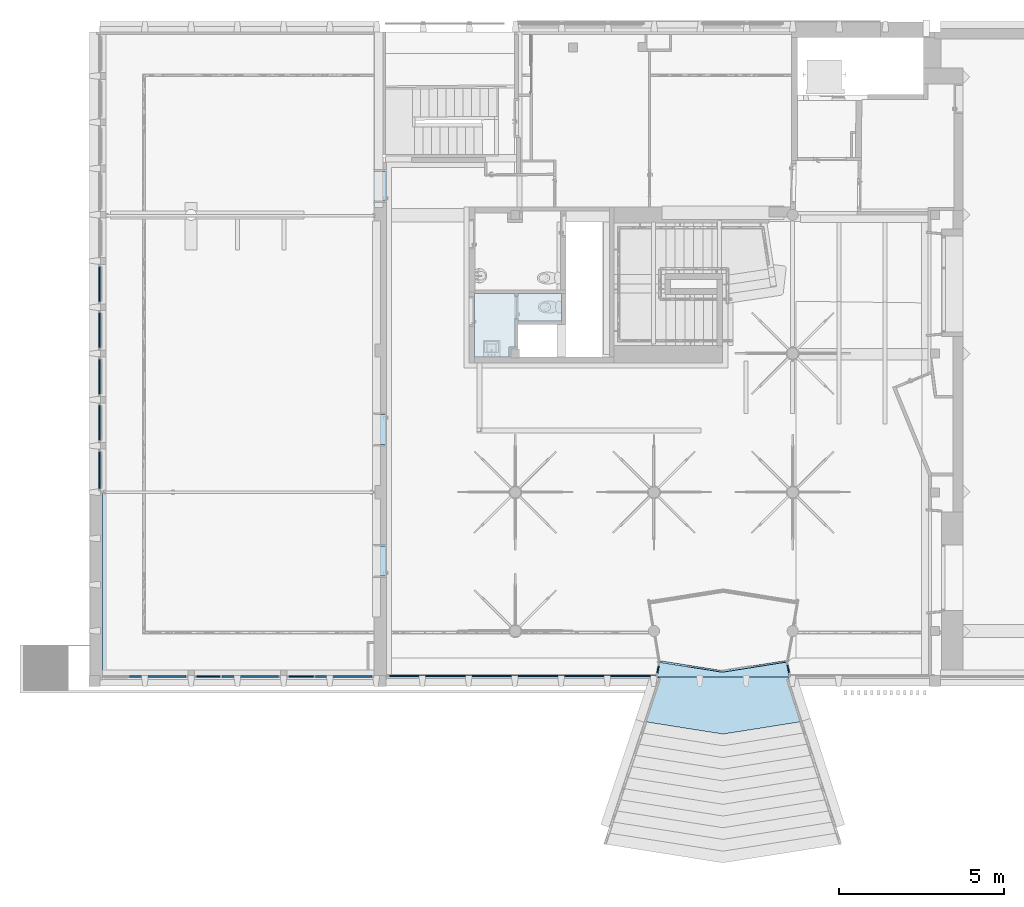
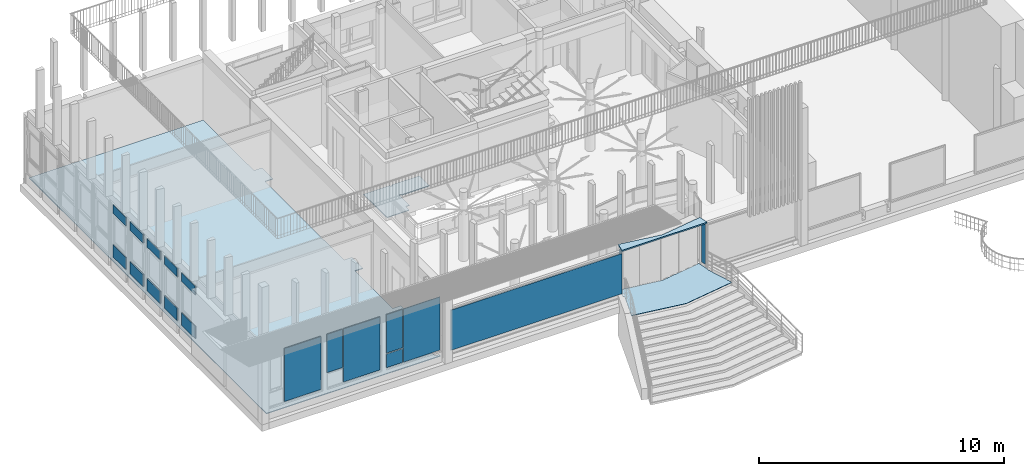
# One storey, part 15 of 65: 19 plates, 4 slabs, 11 elements without a shape of their own.
"""IFC4 building model written with IfcOpenShell, lengths in metres."""

from ifc_helpers import new_model, entity, si_unit, converted_unit, derived_unit, direction, frame, origin, place, context, subcontext, project, spatial, indexed_curve, outline, extrude, shape, source, transform, mapped, material, layer, layer_set, type_object, type_shapes, element, aggregate, save


model = new_model("IFC4")

# Units and contexts
model_context = context("Model", 3, precision=1e-05, world=origin(), true_north=direction((6.12303176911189e-17, 1.0)))
body_context = subcontext(model_context, "Body", "Model", "MODEL_VIEW")
footprint_context = subcontext(model_context, "FootPrint", "Model", "MODEL_VIEW")
ifc_project = project(units=[si_unit("LENGTHUNIT", "METRE"), si_unit("AREAUNIT", "SQUARE_METRE"), si_unit("VOLUMEUNIT", "CUBIC_METRE"), converted_unit("PLANEANGLEUNIT", "DEGREE", entity("IfcRatioMeasure", 0.0174532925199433), si_unit("PLANEANGLEUNIT", "RADIAN"), dimensions=[0, 0, 0, 0, 0, 0, 0]), si_unit("MASSUNIT", "GRAM", prefix="KILO"), derived_unit("MASSDENSITYUNIT", [(si_unit("MASSUNIT", "GRAM", prefix="KILO"), 1), (si_unit("LENGTHUNIT", "METRE"), -3)]), derived_unit("MOMENTOFINERTIAUNIT", [(si_unit("LENGTHUNIT", "METRE"), 4)]), si_unit("TIMEUNIT", "SECOND"), si_unit("FREQUENCYUNIT", "HERTZ"), si_unit("THERMODYNAMICTEMPERATUREUNIT", "DEGREE_CELSIUS"), derived_unit("THERMALTRANSMITTANCEUNIT", [(si_unit("MASSUNIT", "GRAM", prefix="KILO"), 1), (si_unit("THERMODYNAMICTEMPERATUREUNIT", "KELVIN"), -1), (si_unit("TIMEUNIT", "SECOND"), -3)]), derived_unit("VOLUMETRICFLOWRATEUNIT", [(si_unit("LENGTHUNIT", "METRE"), 3), (si_unit("TIMEUNIT", "SECOND"), -1)]), si_unit("ELECTRICCURRENTUNIT", "AMPERE"), si_unit("ELECTRICVOLTAGEUNIT", "VOLT"), si_unit("POWERUNIT", "WATT"), si_unit("FORCEUNIT", "NEWTON", prefix="KILO"), si_unit("ILLUMINANCEUNIT", "LUX"), si_unit("LUMINOUSFLUXUNIT", "LUMEN"), si_unit("LUMINOUSINTENSITYUNIT", "CANDELA"), derived_unit("USERDEFINED", [(si_unit("MASSUNIT", "GRAM", prefix="KILO"), -1), (si_unit("LENGTHUNIT", "METRE"), -2), (si_unit("TIMEUNIT", "SECOND"), 3), (si_unit("LUMINOUSFLUXUNIT", "LUMEN"), 1)]), derived_unit("LINEARVELOCITYUNIT", [(si_unit("LENGTHUNIT", "METRE"), 1), (si_unit("TIMEUNIT", "SECOND"), -1)]), si_unit("PRESSUREUNIT", "PASCAL"), derived_unit("USERDEFINED", [(si_unit("LENGTHUNIT", "METRE"), -2), (si_unit("MASSUNIT", "GRAM", prefix="KILO"), 1), (si_unit("TIMEUNIT", "SECOND"), -2)]), derived_unit("LINEARFORCEUNIT", [(si_unit("MASSUNIT", "GRAM", prefix="KILO"), 1), (si_unit("LENGTHUNIT", "METRE"), 1), (si_unit("TIMEUNIT", "SECOND"), -2), (si_unit("LENGTHUNIT", "METRE"), -1)]), derived_unit("PLANARFORCEUNIT", [(si_unit("MASSUNIT", "GRAM", prefix="KILO"), 1), (si_unit("LENGTHUNIT", "METRE"), 1), (si_unit("TIMEUNIT", "SECOND"), -2), (si_unit("LENGTHUNIT", "METRE"), -2)])], contexts=[model_context])

# Site, building, storey
site_placement = place(None, origin())
site = spatial("IfcSite", under=ifc_project, at=site_placement, Name="Default", CompositionType="ELEMENT")
building_placement = place(site_placement, origin())
building = spatial("IfcBuilding", under=site, at=building_placement, Name="HOTEL CONSULAIRE BOULOGNE SUR MER", CompositionType="ELEMENT")
storey_placement = place(building_placement, origin())
storey = spatial("IfcBuildingStorey", under=building, at=storey_placement, Name="Niveau 0", CompositionType="ELEMENT", Elevation=1.31981936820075e-13)

# Curtain wall, plate
curtain_wall_type = type_object("IfcCurtainWallType", Name="Mur-rideau:Simple panneau", PredefinedType="NOTDEFINED")
curtain_wall_1_placement = place(storey_placement, origin())
curtain_wall_1 = element("IfcCurtainWall", 1, at=curtain_wall_1_placement, inside=storey, type_object=curtain_wall_type, Name="Mur-rideau:Simple panneau", ObjectType="Mur-rideau:Simple panneau", PredefinedType="NOTDEFINED")
ifc_material_1 = material(Name="Verre", Category="Verre")
ifc_layer_1 = layer(ifc_material_1, 0.04, Name="Verre", Category="Verre")
ifc_layer_set_1 = layer_set([ifc_layer_1], Name="Mur-rideau:Simple panneau")
plate_type_1 = type_object("IfcPlateType", Name="Panneau système:Vitré", PredefinedType="CURTAIN_PANEL", material=ifc_layer_set_1)
shared_shape_1 = source(origin(), body_context, "Body", "SweptSolid", [
    extrude(outline(indexed_curve([(-0.0200000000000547, -4.04260374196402), (0.0199999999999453, -4.04260374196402), (0.0200000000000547, 4.04260374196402), (-0.0199999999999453, 4.04260374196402), (-0.0200000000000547, -4.04260374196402)], self_intersect=False)), frame((4.04260374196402, 0.02, 0.0), z_axis=(0.0, 0.0, 1.0), x_axis=(0.0, 1.0, 0.0)), (0.0, 0.0, 1.0), 2.01),
])
shared_shape_2 = source(frame((-4.04260374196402, 0.00500000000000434, 0.0)), footprint_context, "FootPrint", "Curve2D", [
    entity("IfcIndexedPolyCurve", entity("IfcCartesianPointList2D", [[5.27478936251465, 0.00347600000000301], [5.27478936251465, 0.043476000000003], [-2.81041812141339, 0.043476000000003], [-2.81041812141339, 0.00347600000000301], [5.27478936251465, 0.00347600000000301]]), None, False),
])
type_shapes(plate_type_1, [shared_shape_1, shared_shape_2])
plate_1_placement = place(curtain_wall_1_placement, frame((3.03622682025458, -29.5560671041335, 0.139999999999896), z_axis=(0.0, 0.0, 1.0), x_axis=(-1.0, 0.0, 0.0)))
plate_1 = element("IfcPlate", 2, at=plate_1_placement, type_object=plate_type_1, material=ifc_layer_set_1, Name="Panneau système:Vitré", ObjectType="Panneau système:Vitré", PredefinedType="CURTAIN_PANEL", shapes=[
    shape(body_context, "Body", "MappedRepresentation", [mapped(shared_shape_1, transform((0.0, 0.0, 0.0), scale=1.0))]),
    shape(body_context, "Body", "MappedRepresentation", [mapped(shared_shape_2, transform((0.0, 0.0, 0.0), scale=1.0))]),
])
aggregate(curtain_wall_1, [plate_1])

curtain_wall_2_placement = place(storey_placement, origin())
curtain_wall_2 = element("IfcCurtainWall", 3, at=curtain_wall_2_placement, inside=storey, type_object=curtain_wall_type, Name="Mur-rideau:Simple panneau", ObjectType="Mur-rideau:Simple panneau", PredefinedType="NOTDEFINED")
plate_type_2 = type_object("IfcPlateType", Name="Panneau système:Vitré", PredefinedType="CURTAIN_PANEL", material=ifc_layer_set_1)
shared_shape_3 = source(origin(), body_context, "Body", "SweptSolid", [
    extrude(outline(indexed_curve([(-0.0200000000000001, -0.116499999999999), (0.0199999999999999, -0.116499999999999), (0.02, 0.116499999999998), (-0.02, 0.116499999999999), (-0.0200000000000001, -0.116499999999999)], self_intersect=False)), frame((0.116499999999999, 0.02, 0.0), z_axis=(0.0, 0.0, 1.0), x_axis=(0.0, 1.0, 0.0)), (0.0, 0.0, 1.0), 2.01),
])
shared_shape_4 = source(frame((-0.116500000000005, 0.00500000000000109, 0.0)), footprint_context, "FootPrint", "Curve2D", [
    entity("IfcIndexedPolyCurve", entity("IfcCartesianPointList2D", [[0.152009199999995, 0.00347600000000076], [0.152009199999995, 0.0434760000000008], [-0.0809908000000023, 0.0434760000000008], [-0.0809908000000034, 0.00347600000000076], [0.152009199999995, 0.00347600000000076]]), None, False),
])
type_shapes(plate_type_2, [shared_shape_3, shared_shape_4])
plate_2_placement = place(curtain_wall_2_placement, frame((3.09085913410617, -29.5010316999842, 0.139999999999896), z_axis=(0.0, 0.0, 1.0), x_axis=(0.190808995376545, 0.981627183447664, 0.0)))
plate_2 = element("IfcPlate", 4, at=plate_2_placement, type_object=plate_type_2, material=ifc_layer_set_1, Name="Panneau système:Vitré", ObjectType="Panneau système:Vitré", PredefinedType="CURTAIN_PANEL", shapes=[
    shape(body_context, "Body", "MappedRepresentation", [mapped(shared_shape_3, transform((0.0, 0.0, 0.0), scale=1.0))]),
    shape(body_context, "Body", "MappedRepresentation", [mapped(shared_shape_4, transform((0.0, 0.0, 0.0), scale=1.0))]),
])
aggregate(curtain_wall_2, [plate_2])

curtain_wall_3_placement = place(storey_placement, origin())
curtain_wall_3 = element("IfcCurtainWall", 5, at=curtain_wall_3_placement, inside=storey, type_object=curtain_wall_type, Name="Mur-rideau:Simple panneau", ObjectType="Mur-rideau:Simple panneau", PredefinedType="NOTDEFINED")
plate_type_3 = type_object("IfcPlateType", Name="Panneau système:Vitré", PredefinedType="CURTAIN_PANEL", material=ifc_layer_set_1)
shared_shape_5 = source(origin(), body_context, "Body", "SweptSolid", [
    extrude(outline(indexed_curve([(-0.02, -0.125888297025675), (0.02, -0.125888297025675), (0.02, 0.125888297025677), (-0.02, 0.125888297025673), (-0.02, -0.125888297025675)], self_intersect=False)), frame((0.125888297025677, 0.02, 0.0), z_axis=(0.0, 0.0, 1.0), x_axis=(0.0, 1.0, 0.0)), (0.0, 0.0, 1.0), 2.01),
])
shared_shape_6 = source(frame((-0.125888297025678, -0.045, 0.0)), footprint_context, "FootPrint", "Curve2D", [
    entity("IfcIndexedPolyCurve", entity("IfcCartesianPointList2D", [[0.164259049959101, -0.031284], [0.164259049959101, 0.008716], [-0.0875175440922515, 0.00871600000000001], [-0.0875175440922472, -0.031284], [0.164259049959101, -0.031284]]), None, False),
])
type_shapes(plate_type_3, [shared_shape_5, shared_shape_6])
plate_3_placement = place(curtain_wall_3_placement, frame((7.08056810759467, -29.47980369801, 0.139999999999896), z_axis=(0.0, 0.0, 1.0), x_axis=(-0.207911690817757, 0.978147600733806, 0.0)))
plate_3 = element("IfcPlate", 6, at=plate_3_placement, type_object=plate_type_3, material=ifc_layer_set_1, Name="Panneau système:Vitré", ObjectType="Panneau système:Vitré", PredefinedType="CURTAIN_PANEL", shapes=[
    shape(body_context, "Body", "MappedRepresentation", [mapped(shared_shape_5, transform((0.0, 0.0, 0.0), scale=1.0))]),
    shape(body_context, "Body", "MappedRepresentation", [mapped(shared_shape_6, transform((0.0, 0.0, 0.0), scale=1.0))]),
])
aggregate(curtain_wall_3, [plate_3])

# Slabs
ifc_material_2 = material(Name="moquette bleu")
ifc_layer_2 = layer(ifc_material_2, 0.015, Name="moquette bleu")
ifc_material_3 = material(Name="Carrelage beige")
ifc_layer_3 = layer(ifc_material_3, 0.02, Name="Carrelage beige")
ifc_layer_set_2 = layer_set([ifc_layer_2, ifc_layer_3], Name="Sol:finition carrelage 20 mm + moquette 15")
slab_type_1 = type_object("IfcSlabType", Name="Sol:finition carrelage 20 mm + moquette 15", PredefinedType="FLOOR", material=ifc_layer_set_2)
slab_1_placement = place(storey_placement, origin())
element("IfcSlab", 7, at=slab_1_placement, inside=storey, type_object=slab_type_1, material=ifc_layer_set_2, Name="Sol:finition carrelage 20 mm + moquette 15", ObjectType="Sol:finition carrelage 20 mm + moquette 15", PredefinedType="FLOOR", context=body_context, shape_type="SweptSolid", body=[
    extrude(outline(indexed_curve([(-7.19484632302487, -7.49124537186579), (12.2088966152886, -7.49124537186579), (12.2088966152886, 0.728331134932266), (8.06093102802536, 0.728331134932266), (8.06093102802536, 1.10833113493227), (7.16093102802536, 1.10833113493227), (7.16093102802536, 0.728331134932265), (0.697243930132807, 0.728331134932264), (0.697243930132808, 1.10833113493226), (-0.202756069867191, 1.10833113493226), (-0.202756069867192, 0.728331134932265), (-3.28884632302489, 0.728331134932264), (-3.28884632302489, 1.10833113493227), (-4.18884632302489, 1.10833113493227), (-4.18884632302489, 0.728331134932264), (-6.17486945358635, 0.728331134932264), (-6.17486945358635, 0.52459629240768), (-7.07783810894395, 0.524596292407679), (-7.07783810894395, 0.728331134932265), (-7.19484632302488, 0.728331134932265), (-7.19484632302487, -7.49124537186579)], self_intersect=False)), frame((-6.23810431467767, -22.3592207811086, 0.0149999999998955), z_axis=(0.0, 0.0, -1.0), x_axis=(0.0, 1.0, 0.0)), (0.0, 0.0, 1.0), 0.035),
])
ifc_material_4 = material(Name="carrelage noir")
ifc_layer_4 = layer(ifc_material_4, 0.03, Name="carrelage noir")
ifc_layer_set_3 = layer_set([ifc_layer_4], Name="Sol:Finition carrelage noir")
slab_type_2 = type_object("IfcSlabType", Name="Sol:Finition carrelage noir", PredefinedType="FLOOR", material=ifc_layer_set_3)
slab_2_placement = place(storey_placement, origin())
element("IfcSlab", 8, at=slab_2_placement, inside=storey, type_object=slab_type_2, material=ifc_layer_set_3, Name="Sol:Finition carrelage noir", ObjectType="Sol:Finition carrelage noir", PredefinedType="FLOOR", context=body_context, shape_type="SweptSolid", body=[
    extrude(outline(indexed_curve([(-1.17004610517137, -1.25406140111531), (0.742307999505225, -1.25406140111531), (0.742307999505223, -0.0270543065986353), (0.674158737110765, -0.0270543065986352), (0.674158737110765, 0.0629456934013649), (0.742307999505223, 0.0629456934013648), (0.742307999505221, 1.38755837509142), (-0.0878412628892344, 1.38755837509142), (-0.0878412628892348, 0.0629456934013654), (-0.0258412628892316, 0.0629456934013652), (-0.0258412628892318, -0.0270543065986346), (-0.875046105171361, -0.027054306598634), (-0.875046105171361, -0.205279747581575), (-1.17004610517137, -0.205279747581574), (-1.17004610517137, -1.25406140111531)], self_intersect=False)), frame((-1.21529018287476, -18.7448682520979, 0.01), z_axis=(0.0, 0.0, -1.0), x_axis=(0.0, 1.0, 0.0)), (0.0, 0.0, 1.0), 0.03),
])

# Curtain wall, plates
curtain_wall_4_placement = place(storey_placement, origin())
curtain_wall_4 = element("IfcCurtainWall", 9, at=curtain_wall_4_placement, inside=storey, type_object=curtain_wall_type, Name="Mur-rideau:Simple panneau", ObjectType="Mur-rideau:Simple panneau", PredefinedType="NOTDEFINED")
plate_type_4 = type_object("IfcPlateType", Name="Panneau système:Vitré", PredefinedType="CURTAIN_PANEL", material=ifc_layer_set_1)
shared_shape_7 = source(origin(), body_context, "Body", "SweptSolid", [
    extrude(outline(indexed_curve([(-0.02, -0.56180046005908), (0.02, -0.56180046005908), (0.02, 0.56180046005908), (-0.02, 0.56180046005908), (-0.02, -0.56180046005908)], self_intersect=False)), frame((0.56180046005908, 0.02, 0.0), z_axis=(0.0, 0.0, 1.0), x_axis=(0.0, 1.0, 0.0)), (0.0, 0.0, 1.0), 0.612),
])
shared_shape_8 = source(frame((-0.561800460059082, 0.00500000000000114, 0.0)), footprint_context, "FootPrint", "Curve2D", [
    entity("IfcIndexedPolyCurve", entity("IfcCartesianPointList2D", [[0.733037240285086, 0.00347600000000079], [0.733037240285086, 0.0434760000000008], [-0.390563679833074, 0.0434760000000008], [-0.390563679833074, 0.00347600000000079], [0.733037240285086, 0.00347600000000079]]), None, False),
])
type_shapes(plate_type_4, [shared_shape_7, shared_shape_8])
plate_4_placement = place(curtain_wall_4_placement, frame((-13.7950998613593, -23.9050508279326, 0.359999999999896), z_axis=(0.0, 0.0, 1.0), x_axis=(0.0, 1.0, 0.0)))
plate_4 = element("IfcPlate", 10, at=plate_4_placement, type_object=plate_type_4, material=ifc_layer_set_1, Name="Panneau système:Vitré", ObjectType="Panneau système:Vitré", PredefinedType="CURTAIN_PANEL", shapes=[
    shape(body_context, "Body", "MappedRepresentation", [mapped(shared_shape_7, transform((0.0, 0.0, 0.0), scale=1.0))]),
    shape(body_context, "Body", "MappedRepresentation", [mapped(shared_shape_8, transform((0.0, 0.0, 0.0), scale=1.0))]),
])
plate_type_5 = type_object("IfcPlateType", Name="Panneau système:Vitré", PredefinedType="CURTAIN_PANEL", material=ifc_layer_set_1)
shared_shape_9 = source(origin(), body_context, "Body", "SweptSolid", [
    extrude(outline(indexed_curve([(-0.02, -0.56180046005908), (0.02, -0.56180046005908), (0.02, 0.56180046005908), (-0.02, 0.56180046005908), (-0.02, -0.56180046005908)], self_intersect=False)), frame((0.56180046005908, 0.02, 0.0), z_axis=(0.0, 0.0, 1.0), x_axis=(0.0, 1.0, 0.0)), (0.0, 0.0, 1.0), 0.423999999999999),
])
shared_shape_10 = source(frame((-0.561800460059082, 0.00500000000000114, 0.0)), footprint_context, "FootPrint", "Curve2D", [
    entity("IfcIndexedPolyCurve", entity("IfcCartesianPointList2D", [[0.733037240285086, 0.00347600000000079], [0.733037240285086, 0.0434760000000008], [-0.390563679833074, 0.0434760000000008], [-0.390563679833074, 0.00347600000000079], [0.733037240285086, 0.00347600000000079]]), None, False),
])
type_shapes(plate_type_5, [shared_shape_9, shared_shape_10])
plate_5_placement = place(curtain_wall_4_placement, frame((-13.7950998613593, -23.9050508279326, 2.5459999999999), z_axis=(0.0, 0.0, 1.0), x_axis=(0.0, 1.0, 0.0)))
plate_5 = element("IfcPlate", 11, at=plate_5_placement, type_object=plate_type_5, material=ifc_layer_set_1, Name="Panneau système:Vitré", ObjectType="Panneau système:Vitré", PredefinedType="CURTAIN_PANEL", shapes=[
    shape(body_context, "Body", "MappedRepresentation", [mapped(shared_shape_9, transform((0.0, 0.0, 0.0), scale=1.0))]),
    shape(body_context, "Body", "MappedRepresentation", [mapped(shared_shape_10, transform((0.0, 0.0, 0.0), scale=1.0))]),
])
aggregate(curtain_wall_4, [plate_4, plate_5])

# Curtain wall, plate
curtain_wall_5_placement = place(storey_placement, origin())
curtain_wall_5 = element("IfcCurtainWall", 12, at=curtain_wall_5_placement, inside=storey, type_object=curtain_wall_type, Name="Mur-rideau:Simple panneau", ObjectType="Mur-rideau:Simple panneau", PredefinedType="NOTDEFINED")
plate_type_6 = type_object("IfcPlateType", Name="Panneau système:Vitré", PredefinedType="CURTAIN_PANEL", material=ifc_layer_set_1)
shared_shape_11 = source(origin(), body_context, "Body", "SweptSolid", [
    extrude(outline(indexed_curve([(-0.02, -0.530000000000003), (0.02, -0.530000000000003), (0.02, 0.530000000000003), (-0.02, 0.530000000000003), (-0.02, -0.530000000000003)], self_intersect=False)), frame((0.530000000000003, 0.02, 0.0), z_axis=(0.0, 0.0, 1.0), x_axis=(0.0, 1.0, 0.0)), (0.0, 0.0, 1.0), 0.612),
])
shared_shape_12 = source(frame((-0.530000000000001, 0.00500000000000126, 0.0)), footprint_context, "FootPrint", "Curve2D", [
    entity("IfcIndexedPolyCurve", entity("IfcCartesianPointList2D", [[0.691544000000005, 0.00347600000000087], [0.691544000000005, 0.0434760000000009], [-0.368456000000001, 0.0434760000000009], [-0.368456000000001, 0.00347600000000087], [0.691544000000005, 0.00347600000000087]]), None, False),
])
type_shapes(plate_type_6, [shared_shape_11, shared_shape_12])
plate_6_placement = place(curtain_wall_5_placement, frame((-13.7950998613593, -22.4414499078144, 0.359999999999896), z_axis=(0.0, 0.0, 1.0), x_axis=(0.0, 1.0, 0.0)))
plate_6 = element("IfcPlate", 13, at=plate_6_placement, type_object=plate_type_6, material=ifc_layer_set_1, Name="Panneau système:Vitré", ObjectType="Panneau système:Vitré", PredefinedType="CURTAIN_PANEL", shapes=[
    shape(body_context, "Body", "MappedRepresentation", [mapped(shared_shape_11, transform((0.0, 0.0, 0.0), scale=1.0))]),
    shape(body_context, "Body", "MappedRepresentation", [mapped(shared_shape_12, transform((0.0, 0.0, 0.0), scale=1.0))]),
])

curtain_wall_6_placement = place(storey_placement, origin())
curtain_wall_6 = element("IfcCurtainWall", 14, at=curtain_wall_6_placement, inside=storey, type_object=curtain_wall_type, Name="Mur-rideau:Simple panneau", ObjectType="Mur-rideau:Simple panneau", PredefinedType="NOTDEFINED")
plate_7_placement = place(curtain_wall_6_placement, frame((-13.7950998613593, -21.0414499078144, 0.359999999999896), z_axis=(0.0, 0.0, 1.0), x_axis=(0.0, 1.0, 0.0)))
plate_7 = element("IfcPlate", 15, at=plate_7_placement, type_object=plate_type_6, material=ifc_layer_set_1, Name="Panneau système:Vitré", ObjectType="Panneau système:Vitré", PredefinedType="CURTAIN_PANEL", shapes=[
    shape(body_context, "Body", "MappedRepresentation", [mapped(shared_shape_11, transform((0.0, 0.0, 0.0), scale=1.0))]),
    shape(body_context, "Body", "MappedRepresentation", [mapped(shared_shape_12, transform((0.0, 0.0, 0.0), scale=1.0))]),
])

curtain_wall_7_placement = place(storey_placement, origin())
curtain_wall_7 = element("IfcCurtainWall", 16, at=curtain_wall_7_placement, inside=storey, type_object=curtain_wall_type, Name="Mur-rideau:Simple panneau", ObjectType="Mur-rideau:Simple panneau", PredefinedType="NOTDEFINED")
plate_8_placement = place(curtain_wall_7_placement, frame((-13.7950998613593, -19.6414499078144, 0.359999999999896), z_axis=(0.0, 0.0, 1.0), x_axis=(0.0, 1.0, 0.0)))
plate_8 = element("IfcPlate", 17, at=plate_8_placement, type_object=plate_type_6, material=ifc_layer_set_1, Name="Panneau système:Vitré", ObjectType="Panneau système:Vitré", PredefinedType="CURTAIN_PANEL", shapes=[
    shape(body_context, "Body", "MappedRepresentation", [mapped(shared_shape_11, transform((0.0, 0.0, 0.0), scale=1.0))]),
    shape(body_context, "Body", "MappedRepresentation", [mapped(shared_shape_12, transform((0.0, 0.0, 0.0), scale=1.0))]),
])

curtain_wall_8_placement = place(storey_placement, origin())
curtain_wall_8 = element("IfcCurtainWall", 18, at=curtain_wall_8_placement, inside=storey, type_object=curtain_wall_type, Name="Mur-rideau:Simple panneau", ObjectType="Mur-rideau:Simple panneau", PredefinedType="NOTDEFINED")
plate_9_placement = place(curtain_wall_8_placement, frame((-13.7950998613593, -18.2414499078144, 0.359999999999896), z_axis=(0.0, 0.0, 1.0), x_axis=(0.0, 1.0, 0.0)))
plate_9 = element("IfcPlate", 19, at=plate_9_placement, type_object=plate_type_6, material=ifc_layer_set_1, Name="Panneau système:Vitré", ObjectType="Panneau système:Vitré", PredefinedType="CURTAIN_PANEL", shapes=[
    shape(body_context, "Body", "MappedRepresentation", [mapped(shared_shape_11, transform((0.0, 0.0, 0.0), scale=1.0))]),
    shape(body_context, "Body", "MappedRepresentation", [mapped(shared_shape_12, transform((0.0, 0.0, 0.0), scale=1.0))]),
])

# Plate
plate_type_7 = type_object("IfcPlateType", Name="Panneau système:Vitré", PredefinedType="CURTAIN_PANEL", material=ifc_layer_set_1)
shared_shape_13 = source(origin(), body_context, "Body", "SweptSolid", [
    extrude(outline(indexed_curve([(-0.02, -0.530000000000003), (0.02, -0.530000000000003), (0.02, 0.530000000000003), (-0.02, 0.530000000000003), (-0.02, -0.530000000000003)], self_intersect=False)), frame((0.530000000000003, 0.02, 0.0), z_axis=(0.0, 0.0, 1.0), x_axis=(0.0, 1.0, 0.0)), (0.0, 0.0, 1.0), 0.423999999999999),
])
shared_shape_14 = source(frame((-0.530000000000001, 0.00500000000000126, 0.0)), footprint_context, "FootPrint", "Curve2D", [
    entity("IfcIndexedPolyCurve", entity("IfcCartesianPointList2D", [[0.691544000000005, 0.00347600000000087], [0.691544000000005, 0.0434760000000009], [-0.368456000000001, 0.0434760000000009], [-0.368456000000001, 0.00347600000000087], [0.691544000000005, 0.00347600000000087]]), None, False),
])
type_shapes(plate_type_7, [shared_shape_13, shared_shape_14])
plate_10_placement = place(curtain_wall_5_placement, frame((-13.7950998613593, -22.4414499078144, 2.5459999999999), z_axis=(0.0, 0.0, 1.0), x_axis=(0.0, 1.0, 0.0)))
plate_10 = element("IfcPlate", 20, at=plate_10_placement, type_object=plate_type_7, material=ifc_layer_set_1, Name="Panneau système:Vitré", ObjectType="Panneau système:Vitré", PredefinedType="CURTAIN_PANEL", shapes=[
    shape(body_context, "Body", "MappedRepresentation", [mapped(shared_shape_13, transform((0.0, 0.0, 0.0), scale=1.0))]),
    shape(body_context, "Body", "MappedRepresentation", [mapped(shared_shape_14, transform((0.0, 0.0, 0.0), scale=1.0))]),
])

aggregate(curtain_wall_5, [plate_6, plate_10])

plate_11_placement = place(curtain_wall_6_placement, frame((-13.7950998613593, -21.0414499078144, 2.5459999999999), z_axis=(0.0, 0.0, 1.0), x_axis=(0.0, 1.0, 0.0)))
plate_11 = element("IfcPlate", 21, at=plate_11_placement, type_object=plate_type_7, material=ifc_layer_set_1, Name="Panneau système:Vitré", ObjectType="Panneau système:Vitré", PredefinedType="CURTAIN_PANEL", shapes=[
    shape(body_context, "Body", "MappedRepresentation", [mapped(shared_shape_13, transform((0.0, 0.0, 0.0), scale=1.0))]),
    shape(body_context, "Body", "MappedRepresentation", [mapped(shared_shape_14, transform((0.0, 0.0, 0.0), scale=1.0))]),
])

aggregate(curtain_wall_6, [plate_7, plate_11])

plate_12_placement = place(curtain_wall_7_placement, frame((-13.7950998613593, -19.6414499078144, 2.5459999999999), z_axis=(0.0, 0.0, 1.0), x_axis=(0.0, 1.0, 0.0)))
plate_12 = element("IfcPlate", 22, at=plate_12_placement, type_object=plate_type_7, material=ifc_layer_set_1, Name="Panneau système:Vitré", ObjectType="Panneau système:Vitré", PredefinedType="CURTAIN_PANEL", shapes=[
    shape(body_context, "Body", "MappedRepresentation", [mapped(shared_shape_13, transform((0.0, 0.0, 0.0), scale=1.0))]),
    shape(body_context, "Body", "MappedRepresentation", [mapped(shared_shape_14, transform((0.0, 0.0, 0.0), scale=1.0))]),
])

aggregate(curtain_wall_7, [plate_8, plate_12])

plate_13_placement = place(curtain_wall_8_placement, frame((-13.7950998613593, -18.2414499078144, 2.5459999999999), z_axis=(0.0, 0.0, 1.0), x_axis=(0.0, 1.0, 0.0)))
plate_13 = element("IfcPlate", 23, at=plate_13_placement, type_object=plate_type_7, material=ifc_layer_set_1, Name="Panneau système:Vitré", ObjectType="Panneau système:Vitré", PredefinedType="CURTAIN_PANEL", shapes=[
    shape(body_context, "Body", "MappedRepresentation", [mapped(shared_shape_13, transform((0.0, 0.0, 0.0), scale=1.0))]),
    shape(body_context, "Body", "MappedRepresentation", [mapped(shared_shape_14, transform((0.0, 0.0, 0.0), scale=1.0))]),
])

aggregate(curtain_wall_8, [plate_9, plate_13])

# Curtain wall, plate
curtain_wall_9_placement = place(storey_placement, origin())
curtain_wall_9 = element("IfcCurtainWall", 24, at=curtain_wall_9_placement, inside=storey, type_object=curtain_wall_type, Name="Mur-rideau:Simple panneau", ObjectType="Mur-rideau:Simple panneau", PredefinedType="NOTDEFINED")
plate_type_8 = type_object("IfcPlateType", Name="Panneau système:Vitré", PredefinedType="CURTAIN_PANEL", material=ifc_layer_set_1)
shared_shape_15 = source(origin(), body_context, "Body", "SweptSolid", [
    extrude(outline(indexed_curve([(-1.11966666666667, -0.861780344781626), (-0.410666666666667, -0.861780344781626), (1.53033333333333, -0.861780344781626), (1.53033333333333, 0.861780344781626), (-0.410666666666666, 0.861780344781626), (-1.11966666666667, 0.861780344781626), (-1.11966666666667, -0.861780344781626)], self_intersect=False)), frame((0.861780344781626, 0.0, 1.11966666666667), z_axis=(0.0, 1.0, 0.0), x_axis=(0.0, 0.0, 1.0)), (0.0, 0.0, 1.0), 0.04),
])
shared_shape_16 = source(frame((-0.861780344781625, 0.00499999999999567, 0.0)), footprint_context, "FootPrint", "Curve2D", [
    entity("IfcIndexedPolyCurve", entity("IfcCartesianPointList2D", [[-0.599109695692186, 0.00347599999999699], [-0.599109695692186, 0.00347599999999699], [-0.599109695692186, 0.00347599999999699], [1.12445099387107, 0.00347599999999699], [1.12445099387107, 0.00347599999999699], [1.12445099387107, 0.00347599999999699], [-0.599109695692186, 0.00347599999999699]]), None, False),
])
type_shapes(plate_type_8, [shared_shape_15, shared_shape_16])
plate_14_placement = place(curtain_wall_9_placement, frame((-12.9149806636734, -29.6090671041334, 0.349999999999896)))
plate_14 = element("IfcPlate", 25, at=plate_14_placement, type_object=plate_type_8, material=ifc_layer_set_1, Name="Panneau système:Vitré", ObjectType="Panneau système:Vitré", PredefinedType="CURTAIN_PANEL", shapes=[
    shape(body_context, "Body", "MappedRepresentation", [mapped(shared_shape_15, transform((0.0, 0.0, 0.0), scale=1.0))]),
    shape(body_context, "Body", "MappedRepresentation", [mapped(shared_shape_16, transform((0.0, 0.0, 0.0), scale=1.0))]),
])
aggregate(curtain_wall_9, [plate_14])

curtain_wall_10_placement = place(storey_placement, origin())
curtain_wall_10 = element("IfcCurtainWall", 26, at=curtain_wall_10_placement, inside=storey, type_object=curtain_wall_type, Name="Mur-rideau:Simple panneau", ObjectType="Mur-rideau:Simple panneau", PredefinedType="NOTDEFINED")
plate_15_placement = place(curtain_wall_10_placement, frame((-7.28333386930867, -29.6090671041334, 0.349999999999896)))
plate_15 = element("IfcPlate", 27, at=plate_15_placement, type_object=plate_type_8, material=ifc_layer_set_1, Name="Panneau système:Vitré", ObjectType="Panneau système:Vitré", PredefinedType="CURTAIN_PANEL", shapes=[
    shape(body_context, "Body", "MappedRepresentation", [mapped(shared_shape_15, transform((0.0, 0.0, 0.0), scale=1.0))]),
    shape(body_context, "Body", "MappedRepresentation", [mapped(shared_shape_16, transform((0.0, 0.0, 0.0), scale=1.0))]),
])

curtain_wall_11_placement = place(storey_placement, origin())
curtain_wall_11 = element("IfcCurtainWall", 28, at=curtain_wall_11_placement, inside=storey, type_object=curtain_wall_type, Name="Mur-rideau:Simple panneau", ObjectType="Mur-rideau:Simple panneau", PredefinedType="NOTDEFINED")
plate_16_placement = place(curtain_wall_11_placement, frame((-10.1149806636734, -29.6090671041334, 0.349999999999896)))
plate_16 = element("IfcPlate", 29, at=plate_16_placement, type_object=plate_type_8, material=ifc_layer_set_1, Name="Panneau système:Vitré", ObjectType="Panneau système:Vitré", PredefinedType="CURTAIN_PANEL", shapes=[
    shape(body_context, "Body", "MappedRepresentation", [mapped(shared_shape_15, transform((0.0, 0.0, 0.0), scale=1.0))]),
    shape(body_context, "Body", "MappedRepresentation", [mapped(shared_shape_16, transform((0.0, 0.0, 0.0), scale=1.0))]),
])

# Plate
plate_type_9 = type_object("IfcPlateType", Name="Panneau système:Vitré", PredefinedType="CURTAIN_PANEL", material=ifc_layer_set_1)
shared_shape_17 = source(origin(), body_context, "Body", "SweptSolid", [
    extrude(outline(indexed_curve([(-0.02, -0.379043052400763), (0.02, -0.379043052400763), (0.02, 0.379043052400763), (-0.02, 0.379043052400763), (-0.02, -0.379043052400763)], self_intersect=False)), frame((0.379043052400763, 0.02, 0.0), z_axis=(0.0, 0.0, 1.0), x_axis=(0.0, 1.0, 0.0)), (0.0, 0.0, 1.0), 0.684),
])
shared_shape_18 = source(frame((-0.379043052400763, 0.00500000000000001, 0.0)), footprint_context, "FootPrint", "Curve2D", [
    entity("IfcIndexedPolyCurve", entity("IfcCartesianPointList2D", [[0.494575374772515, 0.003476], [0.494575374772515, 0.043476], [-0.263510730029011, 0.043476], [-0.263510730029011, 0.003476], [0.494575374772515, 0.003476]]), None, False),
])
type_shapes(plate_type_9, [shared_shape_17, shared_shape_18])
plate_17_placement = place(curtain_wall_10_placement, frame((-8.0914199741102, -29.6090671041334, 0.349999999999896)))
plate_17 = element("IfcPlate", 30, at=plate_17_placement, type_object=plate_type_9, material=ifc_layer_set_1, Name="Panneau système:Vitré", ObjectType="Panneau système:Vitré", PredefinedType="CURTAIN_PANEL", shapes=[
    shape(body_context, "Body", "MappedRepresentation", [mapped(shared_shape_17, transform((0.0, 0.0, 0.0), scale=1.0))]),
    shape(body_context, "Body", "MappedRepresentation", [mapped(shared_shape_18, transform((0.0, 0.0, 0.0), scale=1.0))]),
])

plate_type_10 = type_object("IfcPlateType", Name="Panneau système:Vitré", PredefinedType="CURTAIN_PANEL", material=ifc_layer_set_1)
shared_shape_19 = source(origin(), body_context, "Body", "SweptSolid", [
    extrude(outline(indexed_curve([(-0.02, -0.379043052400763), (0.02, -0.379043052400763), (0.02, 0.379043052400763), (-0.02, 0.379043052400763), (-0.02, -0.379043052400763)], self_intersect=False)), frame((0.379043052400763, 0.02, 0.0), z_axis=(0.0, 0.0, 1.0), x_axis=(0.0, 1.0, 0.0)), (0.0, 0.0, 1.0), 1.916),
])
shared_shape_20 = source(frame((-0.379043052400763, 0.00500000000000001, 0.0)), footprint_context, "FootPrint", "Curve2D", [
    entity("IfcIndexedPolyCurve", entity("IfcCartesianPointList2D", [[0.494575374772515, 0.003476], [0.494575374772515, 0.043476], [-0.263510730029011, 0.043476], [-0.263510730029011, 0.003476], [0.494575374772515, 0.003476]]), None, False),
])
type_shapes(plate_type_10, [shared_shape_19, shared_shape_20])
plate_18_placement = place(curtain_wall_10_placement, frame((-8.0914199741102, -29.6090671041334, 1.0839999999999)))
plate_18 = element("IfcPlate", 31, at=plate_18_placement, type_object=plate_type_10, material=ifc_layer_set_1, Name="Panneau système:Vitré", ObjectType="Panneau système:Vitré", PredefinedType="CURTAIN_PANEL", shapes=[
    shape(body_context, "Body", "MappedRepresentation", [mapped(shared_shape_19, transform((0.0, 0.0, 0.0), scale=1.0))]),
    shape(body_context, "Body", "MappedRepresentation", [mapped(shared_shape_20, transform((0.0, 0.0, 0.0), scale=1.0))]),
])

aggregate(curtain_wall_10, [plate_17, plate_15, plate_18])

plate_type_11 = type_object("IfcPlateType", Name="Panneau système:Vitré", PredefinedType="CURTAIN_PANEL", material=ifc_layer_set_1)
shared_shape_21 = source(origin(), body_context, "Body", "SweptSolid", [
    extrude(outline(indexed_curve([(-0.02, -0.363219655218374), (0.02, -0.363219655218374), (0.02, 0.363219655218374), (-0.02, 0.363219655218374), (-0.02, -0.363219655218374)], self_intersect=False)), frame((0.363219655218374, 0.02, 0.0), z_axis=(0.0, 0.0, 1.0), x_axis=(0.0, 1.0, 0.0)), (0.0, 0.0, 1.0), 1.916),
])
shared_shape_22 = source(frame((-0.363219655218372, 0.00500000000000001, 0.0)), footprint_context, "FootPrint", "Curve2D", [
    entity("IfcIndexedPolyCurve", entity("IfcCartesianPointList2D", [[0.473929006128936, 0.003476], [0.473929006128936, 0.043476], [-0.252510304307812, 0.043476], [-0.252510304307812, 0.003476], [0.473929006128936, 0.003476]]), None, False),
])
type_shapes(plate_type_11, [shared_shape_21, shared_shape_22])
plate_19_placement = place(curtain_wall_11_placement, frame((-10.8914199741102, -29.6090671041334, 1.0839999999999)))
plate_19 = element("IfcPlate", 32, at=plate_19_placement, type_object=plate_type_11, material=ifc_layer_set_1, Name="Panneau système:Vitré", ObjectType="Panneau système:Vitré", PredefinedType="CURTAIN_PANEL", shapes=[
    shape(body_context, "Body", "MappedRepresentation", [mapped(shared_shape_21, transform((0.0, 0.0, 0.0), scale=1.0))]),
    shape(body_context, "Body", "MappedRepresentation", [mapped(shared_shape_22, transform((0.0, 0.0, 0.0), scale=1.0))]),
])

aggregate(curtain_wall_11, [plate_16, plate_19])

# Slabs
ifc_material_5 = material(Name="carrelage 30x30")
ifc_layer_5 = layer(ifc_material_5, 0.02, Name="carrelage 30x30")
ifc_layer_set_4 = layer_set([ifc_layer_5], Name="Sol:Finition carrelage 30x30 2")
slab_type_3 = type_object("IfcSlabType", Name="Sol:Finition carrelage 30x30 2", PredefinedType="FLOOR", material=ifc_layer_set_4)
slab_3_placement = place(storey_placement, origin())
element("IfcSlab", 33, at=slab_3_placement, inside=storey, type_object=slab_type_3, material=ifc_layer_set_4, Name="Sol:Finition carrelage 30x30 2", ObjectType="Sol:Finition carrelage 30x30 2", PredefinedType="FLOOR", context=body_context, shape_type="SweptSolid", body=[
    extrude(outline(indexed_curve([(-0.425573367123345, -2.01075421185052), (0.120922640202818, -2.01075421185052), (0.124182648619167, -1.97917446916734), (1.484550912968, -2.11960664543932), (1.35823962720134, 0.290556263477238), (0.497837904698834, 2.5319793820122), (-0.699866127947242, 1.83064087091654), (-0.72887299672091, 1.88017706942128), (-1.20523967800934, 1.677971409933), (-0.526181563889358, -0.091035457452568), (-0.425573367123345, -2.01075421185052)], self_intersect=False)), frame((5.06266788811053, -29.9461072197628, 0.0), z_axis=(0.0, 0.0, -1.0), x_axis=(0.207911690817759, -0.978147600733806, 0.0)), (0.0, 0.0, 1.0), 0.02),
])
ifc_material_6 = material(Name="PVC - Blanc", Category="Plastique")
ifc_layer_6 = layer(ifc_material_6, 0.066, Name="PVC - Blanc", Category="Plastique")
ifc_layer_set_5 = layer_set([ifc_layer_6], Name="Sol:Dalle en béton - 66mm")
slab_type_4 = type_object("IfcSlabType", Name="Sol:Dalle en béton - 66mm", PredefinedType="FLOOR", material=ifc_layer_set_5)
slab_4_placement = place(storey_placement, origin())
element("IfcSlab", 34, at=slab_4_placement, inside=storey, type_object=slab_type_4, material=ifc_layer_set_5, Name="Sol:Dalle en béton - 66mm", ObjectType="Sol:Dalle en béton - 66mm", PredefinedType="FLOOR", context=body_context, shape_type="SweptSolid", body=[
    extrude(outline(indexed_curve([(-2.0201245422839, -0.207864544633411), (2.01667628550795, -0.207864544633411), (1.92945637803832, 0.24084298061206), (-0.00103834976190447, -0.0649173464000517), (-1.92496977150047, 0.239803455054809), (-2.0201245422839, -0.207864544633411)], self_intersect=False)), frame((5.0412763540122, -29.3982025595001, 2.316), z_axis=(0.0, 0.0, -1.0), x_axis=(-1.0, 0.0, 0.0)), (0.0, 0.0, 1.0), 0.0659999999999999),
])

save(model, "model.ifc")
